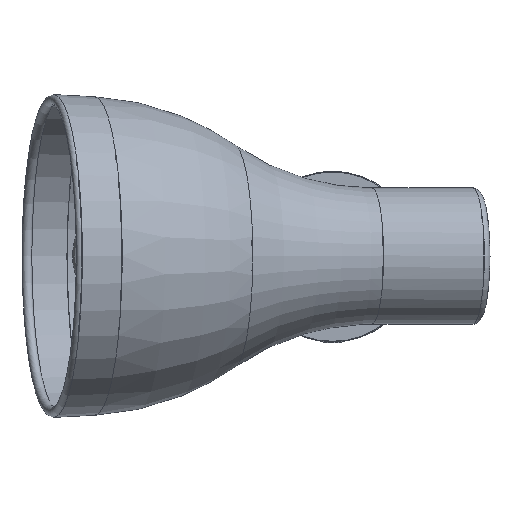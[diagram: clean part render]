
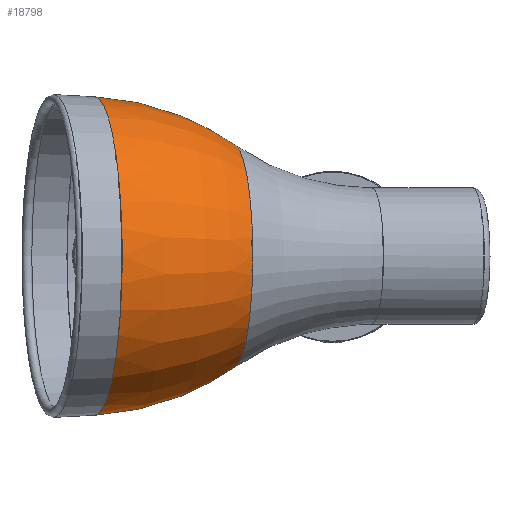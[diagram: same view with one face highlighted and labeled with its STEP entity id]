
A CAD part, top view. The second image highlights one B-rep face of the part: STEP entity #18798.
In plain terms, the highlighted toroidal (fillet/blend) face has major radius 50.439 mm and minor radius 120.596 mm.
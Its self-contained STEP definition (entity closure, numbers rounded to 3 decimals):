
#2 = DIRECTION ( 'NONE',  ( -0.985, 0., 0.174 ) ) ;
#489 = CARTESIAN_POINT ( 'NONE',  ( -76.878, 7.004, 207.216 ) ) ;
#2258 = EDGE_LOOP ( 'NONE', ( #5121 ) ) ;
#3745 = AXIS2_PLACEMENT_3D ( 'NONE', #489, #18305, #10208 ) ;
#5114 = FACE_OUTER_BOUND ( 'NONE', #10193, .T. ) ;
#5121 = ORIENTED_EDGE ( 'NONE', *, *, #9512, .T. ) ;
#5293 = VERTEX_POINT ( 'NONE', #12790 ) ;
#5750 = DIRECTION ( 'NONE',  ( 0., 1., 0. ) ) ;
#6714 = EDGE_CURVE ( 'NONE', #15023, #15023, #17314, .T. ) ;
#7631 = AXIS2_PLACEMENT_3D ( 'NONE', #8879, #2, #10361 ) ;
#8673 = CARTESIAN_POINT ( 'NONE',  ( -143.957, 7.004, 219.044 ) ) ;
#8879 = CARTESIAN_POINT ( 'NONE',  ( -137.905, 7.004, 217.977 ) ) ;
#9512 = EDGE_CURVE ( 'NONE', #5293, #5293, #19035, .T. ) ;
#10193 = EDGE_LOOP ( 'NONE', ( #13750 ) ) ;
#10208 = DIRECTION ( 'NONE',  ( 0., 1., 0. ) ) ;
#10361 = DIRECTION ( 'NONE',  ( 0., 1., 0. ) ) ;
#12790 = CARTESIAN_POINT ( 'NONE',  ( -76.878, 56.083, 207.216 ) ) ;
#12981 = FACE_OUTER_BOUND ( 'NONE', #2258, .T. ) ;
#13750 = ORIENTED_EDGE ( 'NONE', *, *, #6714, .F. ) ;
#14621 = DIRECTION ( 'NONE',  ( -0.985, 0., 0.174 ) ) ;
#14916 = AXIS2_PLACEMENT_3D ( 'NONE', #8673, #14621, #5750 ) ;
#15023 = VERTEX_POINT ( 'NONE', #15624 ) ;
#15510 = TOROIDAL_SURFACE ( 'NONE', #14916, -50.439, 120.596 ) ;
#15624 = CARTESIAN_POINT ( 'NONE',  ( -137.905, 77.004, 217.977 ) ) ;
#17314 = CIRCLE ( 'NONE', #7631, 70. ) ;
#18305 = DIRECTION ( 'NONE',  ( -0.985, 0., 0.174 ) ) ;
#18798 = ADVANCED_FACE ( 'NONE', ( #12981, #5114 ), #15510, .T. ) ;
#19035 = CIRCLE ( 'NONE', #3745, 49.079 ) ;
